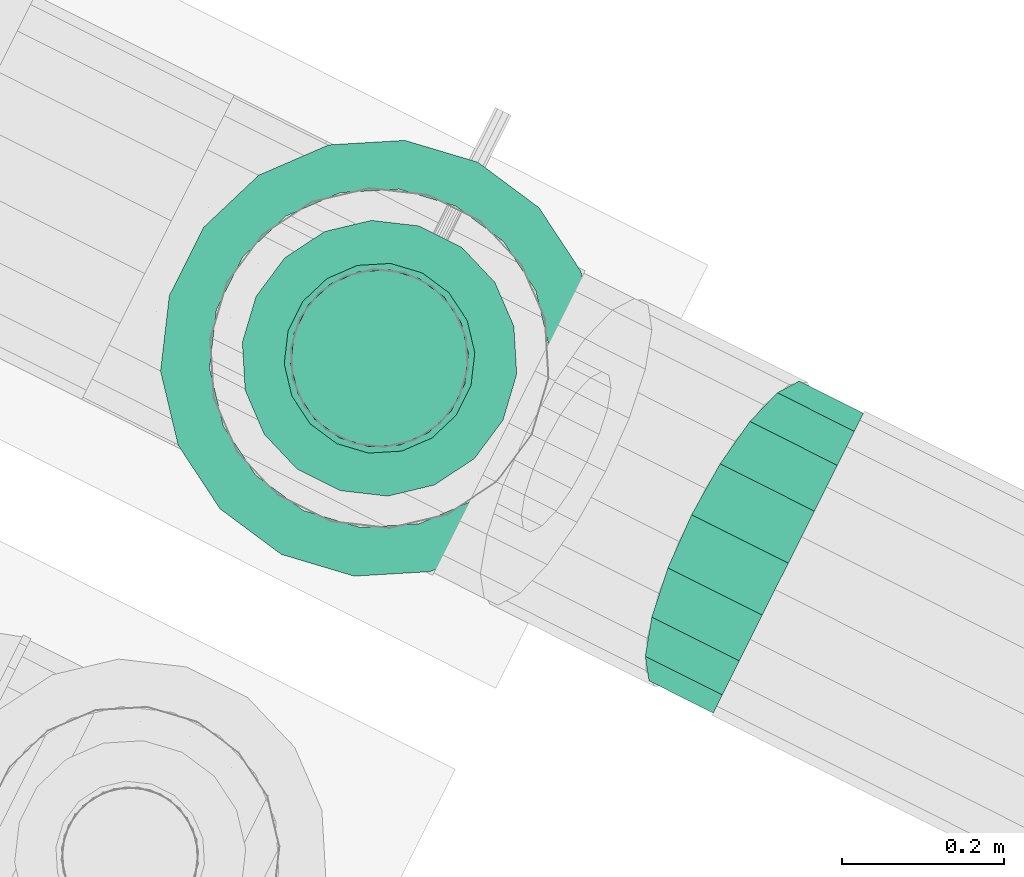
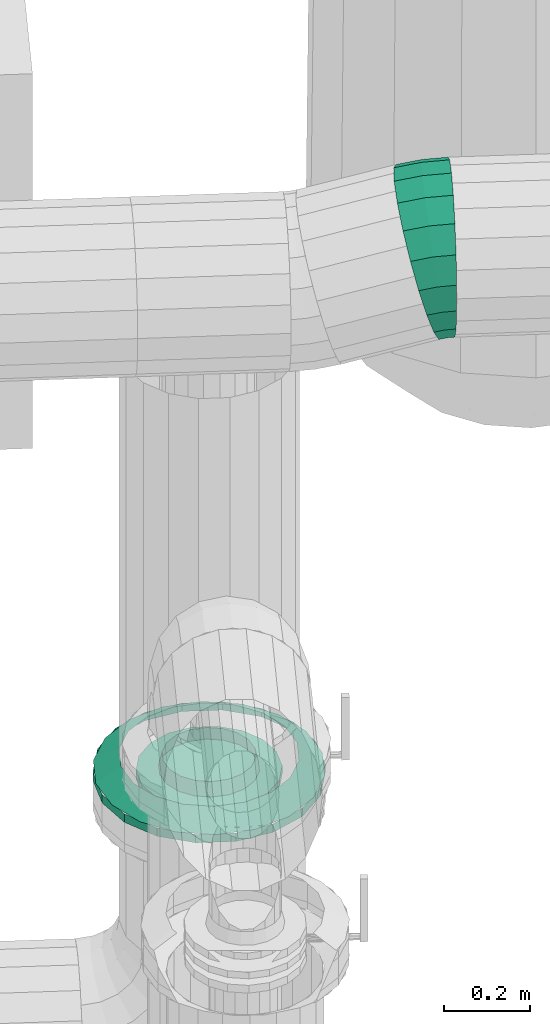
# One storey, part 137 of 152: 1 flow fitting, 1 flow segment.
"""IFC2X3 building model written with IfcOpenShell, lengths in metres."""

from ifc_helpers import new_model, si_unit, derived_unit, direction, frame, origin, place, context, subcontext, project, spatial, face_set, surface_model, source, transform, mapped, material, type_object, type_shapes, element, save


model = new_model("IFC2X3")

# Units and contexts
model_context = context("Model", 3, precision=5.2338327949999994e-05, world=origin(), true_north=direction((0.0, 1.0)))
body_context = subcontext(model_context, "Body", "Model", "MODEL_VIEW")
ifc_project = project(units=[si_unit("LENGTHUNIT", "METRE"), si_unit("AREAUNIT", "SQUARE_METRE"), si_unit("VOLUMEUNIT", "CUBIC_METRE"), si_unit("MASSUNIT", "GRAM", prefix="KILO"), si_unit("PLANEANGLEUNIT", "RADIAN"), derived_unit("THERMALTRANSMITTANCEUNIT", [(si_unit("MASSUNIT", "GRAM", prefix="KILO"), 1), (si_unit("THERMODYNAMICTEMPERATUREUNIT", "KELVIN"), -1), (si_unit("TIMEUNIT", "SECOND"), -3)])], contexts=[model_context])

# Site, building, storey
site_placement = place(None, frame((0.0, 0.0, 0.0), z_axis=(0.0, 0.0, 1.0), x_axis=(0.8939966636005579, -0.4480736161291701, 0.0)))
site = spatial("IfcSite", under=ifc_project, at=site_placement, Name="Default", CompositionType="ELEMENT")
building_placement = place(site_placement, origin())
building = spatial("IfcBuilding", under=site, at=building_placement, CompositionType="ELEMENT")
storey_placement = place(building_placement, frame((0.0, 0.0, 2.7499999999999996)))
storey = spatial("IfcBuildingStorey", under=building, at=storey_placement, Name="1. Obergeschoss", CompositionType="ELEMENT", Elevation=2.7499999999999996)

# Flow fitting
ifc_material = material(Name="IfcSurfaceStyle #1741")
distribution_element_type_1 = type_object("IfcDistributionElementType", Name="Flansch:Flansch", material=ifc_material)
shared_shape_1 = source(origin(), body_context, "Body", "SurfaceModel", [
    surface_model("IfcFaceBasedSurfaceModel", [(11.895814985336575, 8.012208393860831, 4.161028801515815), (11.885562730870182, 8.070351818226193, 4.161028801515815), (11.885562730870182, 8.070351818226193, 4.185028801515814), (11.895814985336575, 8.012208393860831, 4.185028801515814), (11.856042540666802, 8.121482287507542, 4.161028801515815), (11.856042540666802, 8.121482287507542, 4.185028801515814), (11.810814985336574, 8.159432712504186, 4.161028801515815), (11.810814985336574, 8.159432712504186, 4.185028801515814), (11.755335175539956, 8.179625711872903, 4.161028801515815), (11.755335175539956, 8.179625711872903, 4.185028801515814), (11.696294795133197, 8.179625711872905, 4.161028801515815), (11.696294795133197, 8.179625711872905, 4.185028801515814), (11.640814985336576, 8.159432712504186, 4.161028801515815), (11.640814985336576, 8.159432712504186, 4.185028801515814), (11.595587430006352, 8.121482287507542, 4.161028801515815), (11.595587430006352, 8.121482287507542, 4.185028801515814), (11.566067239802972, 8.070351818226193, 4.161028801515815), (11.566067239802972, 8.070351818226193, 4.185028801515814), (11.555814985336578, 8.012208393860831, 4.161028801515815), (11.555814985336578, 8.012208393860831, 4.185028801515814), (11.566067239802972, 7.954064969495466, 4.161028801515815), (11.566067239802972, 7.954064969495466, 4.185028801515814), (11.595587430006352, 7.90293450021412, 4.161028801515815), (11.595587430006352, 7.90293450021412, 4.185028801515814), (11.640814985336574, 7.864984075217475, 4.161028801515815), (11.640814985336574, 7.864984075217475, 4.185028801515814), (11.6962947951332, 7.844791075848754, 4.161028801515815), (11.6962947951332, 7.844791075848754, 4.185028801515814), (11.755335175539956, 7.844791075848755, 4.161028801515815), (11.755335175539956, 7.844791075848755, 4.185028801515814), (11.810814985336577, 7.8649840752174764, 4.161028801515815), (11.810814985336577, 7.8649840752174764, 4.185028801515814), (11.8560425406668, 7.902934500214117, 4.161028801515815), (11.8560425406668, 7.902934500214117, 4.185028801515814), (11.885562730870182, 7.954064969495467, 4.161028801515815), (11.885562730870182, 7.954064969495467, 4.185028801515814), (11.725814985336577, 8.012208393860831, 4.185028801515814), (11.725814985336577, 7.89470839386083, 4.185028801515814), (11.766002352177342, 7.901794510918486, 4.185028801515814), (11.763283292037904, 7.909265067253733, 4.223028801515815), (11.725814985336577, 7.902658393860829, 4.223028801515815), (11.801342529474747, 7.922198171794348, 4.185028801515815), (11.796232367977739, 7.928288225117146, 4.223028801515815), (11.827572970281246, 7.953458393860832, 4.185028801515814), (11.82068806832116, 7.957433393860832, 4.223028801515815), (11.841529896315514, 7.991804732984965, 4.185028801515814), (11.833700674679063, 7.993185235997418, 4.223028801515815), (11.841529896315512, 8.032612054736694, 4.185028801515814), (11.833700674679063, 8.031231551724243, 4.223028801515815), (11.827572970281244, 8.070958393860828, 4.185028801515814), (11.820688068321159, 8.066983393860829, 4.223028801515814), (11.801342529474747, 8.10221861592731, 4.185028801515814), (11.796232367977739, 8.096128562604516, 4.223028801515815), (11.766002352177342, 8.122622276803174, 4.185028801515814), (11.763283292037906, 8.115151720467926, 4.223028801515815), (11.725814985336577, 8.129708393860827, 4.185028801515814), (11.725814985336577, 8.121758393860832, 4.223028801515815), (11.68562761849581, 8.122622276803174, 4.185028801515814), (11.688346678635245, 8.115151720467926, 4.223028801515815), (11.650287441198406, 8.102218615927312, 4.185028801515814), (11.655397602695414, 8.096128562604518, 4.223028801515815), (11.624057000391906, 8.07095839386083, 4.185028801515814), (11.630941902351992, 8.06698339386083, 4.223028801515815), (11.610100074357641, 8.032612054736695, 4.185028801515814), (11.617929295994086, 8.031231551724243, 4.223028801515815), (11.610100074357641, 7.991804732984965, 4.185028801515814), (11.617929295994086, 7.993185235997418, 4.223028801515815), (11.624057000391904, 7.95345839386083, 4.185028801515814), (11.630941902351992, 7.957433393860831, 4.223028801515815), (11.650287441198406, 7.922198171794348, 4.185028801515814), (11.655397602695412, 7.928288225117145, 4.223028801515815), (11.68562761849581, 7.901794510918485, 4.185028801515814), (11.688346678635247, 7.909265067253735, 4.223028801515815), (11.995814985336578, 8.012208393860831, 4.161028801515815), (11.97953199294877, 8.104553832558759, 4.161028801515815), (11.97953199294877, 8.104553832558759, 4.185028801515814), (11.995814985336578, 8.012208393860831, 4.185028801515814), (11.932646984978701, 8.185761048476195, 4.161028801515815), (11.932646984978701, 8.185761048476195, 4.185028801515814), (11.860814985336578, 8.246035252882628, 4.161028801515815), (11.860814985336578, 8.246035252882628, 4.185028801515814), (11.772699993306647, 8.278106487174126, 4.161028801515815), (11.772699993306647, 8.278106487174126, 4.185028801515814), (11.678929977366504, 8.278106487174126, 4.161028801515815), (11.678929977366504, 8.278106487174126, 4.185028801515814), (11.590814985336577, 8.246035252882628, 4.161028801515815), (11.590814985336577, 8.246035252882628, 4.185028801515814), (11.518982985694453, 8.185761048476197, 4.161028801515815), (11.518982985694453, 8.185761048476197, 4.185028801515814), (11.472097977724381, 8.10455383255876, 4.161028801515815), (11.472097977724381, 8.10455383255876, 4.185028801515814), (11.455814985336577, 8.012208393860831, 4.161028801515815), (11.455814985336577, 8.012208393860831, 4.185028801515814), (11.472097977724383, 7.919862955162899, 4.161028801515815), (11.472097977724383, 7.919862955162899, 4.185028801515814), (11.518982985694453, 7.838655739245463, 4.161028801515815), (11.518982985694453, 7.838655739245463, 4.185028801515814), (11.590814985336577, 7.77838153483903, 4.161028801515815), (11.590814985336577, 7.77838153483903, 4.185028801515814), (11.678929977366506, 7.746310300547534, 4.161028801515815), (11.678929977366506, 7.746310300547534, 4.185028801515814), (11.772699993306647, 7.746310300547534, 4.161028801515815), (11.772699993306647, 7.746310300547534, 4.185028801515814), (11.860814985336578, 7.77838153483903, 4.161028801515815), (11.860814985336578, 7.77838153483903, 4.185028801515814), (11.932646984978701, 7.838655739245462, 4.161028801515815), (11.932646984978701, 7.838655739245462, 4.185028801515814), (11.97953199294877, 7.919862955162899, 4.161028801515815), (11.97953199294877, 7.919862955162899, 4.185028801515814), (11.725814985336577, 7.74220839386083, 4.185028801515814), (11.818160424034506, 7.758491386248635, 4.185028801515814), (11.79748530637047, 7.815295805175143, 4.223028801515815), (11.725814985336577, 7.802658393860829, 4.223028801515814), (11.899367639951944, 7.8053763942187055, 4.185028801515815), (11.860511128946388, 7.8516837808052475, 4.223028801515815), (11.959641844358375, 7.87720839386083, 4.185028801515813), (11.907290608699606, 7.90743339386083, 4.223028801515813), (11.991713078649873, 7.965323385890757, 4.1850288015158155), (11.932181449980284, 7.975820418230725, 4.223028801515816), (11.991713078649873, 8.059093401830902, 4.185028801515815), (11.932181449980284, 8.048596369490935, 4.223028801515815), (11.959641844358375, 8.14720839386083, 4.185028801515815), (11.907290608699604, 8.11698339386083, 4.223028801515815), (11.899367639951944, 8.219040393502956, 4.185028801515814), (11.860511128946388, 8.172733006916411, 4.223028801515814), (11.818160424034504, 8.265925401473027, 4.185028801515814), (11.79748530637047, 8.209120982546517, 4.223028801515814), (11.725814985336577, 8.282208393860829, 4.185028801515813), (11.725814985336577, 8.22175839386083, 4.223028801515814), (11.633469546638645, 8.265925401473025, 4.185028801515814), (11.654144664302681, 8.209120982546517, 4.223028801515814), (11.55226233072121, 8.219040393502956, 4.185028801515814), (11.591118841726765, 8.172733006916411, 4.223028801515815), (11.491988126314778, 8.14720839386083, 4.185028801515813), (11.544339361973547, 8.11698339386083, 4.223028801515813), (11.45991689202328, 8.059093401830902, 4.185028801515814), (11.519448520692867, 8.048596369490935, 4.223028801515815), (11.45991689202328, 7.965323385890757, 4.185028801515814), (11.519448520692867, 7.9758204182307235, 4.223028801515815), (11.491988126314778, 7.87720839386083, 4.185028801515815), (11.544339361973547, 7.90743339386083, 4.223028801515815), (11.55226233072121, 7.805376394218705, 4.185028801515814), (11.591118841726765, 7.8516837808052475, 4.223028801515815), (11.633469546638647, 7.758491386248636, 4.185028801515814), (11.654144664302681, 7.815295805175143, 4.223028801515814)], [face_set([[[0, 1, 2, 3]], [[1, 4, 5, 2]], [[4, 6, 7, 5]], [[6, 8, 9, 7]], [[8, 10, 11, 9]], [[10, 12, 13, 11]], [[12, 14, 15, 13]], [[14, 16, 17, 15]], [[16, 18, 19, 17]], [[18, 20, 21, 19]], [[20, 22, 23, 21]], [[22, 24, 25, 23]], [[24, 26, 27, 25]], [[26, 28, 29, 27]], [[28, 30, 31, 29]], [[30, 32, 33, 31]], [[32, 34, 35, 33]], [[34, 0, 3, 35]], [[36, 35, 3]], [[36, 33, 35]], [[36, 31, 33]], [[36, 29, 31]], [[36, 27, 29]], [[36, 25, 27]], [[36, 23, 25]], [[36, 21, 23]], [[36, 19, 21]], [[36, 17, 19]], [[36, 15, 17]], [[36, 13, 15]], [[36, 11, 13]], [[36, 9, 11]], [[36, 7, 9]], [[36, 5, 7]], [[36, 2, 5]], [[36, 3, 2]], [[37, 38, 39, 40]], [[38, 41, 42, 39]], [[41, 43, 44, 42]], [[43, 45, 46, 44]], [[45, 47, 48, 46]], [[47, 49, 50, 48]], [[49, 51, 52, 50]], [[51, 53, 54, 52]], [[53, 55, 56, 54]], [[55, 57, 58, 56]], [[57, 59, 60, 58]], [[59, 61, 62, 60]], [[61, 63, 64, 62]], [[63, 65, 66, 64]], [[65, 67, 68, 66]], [[67, 69, 70, 68]], [[69, 71, 72, 70]], [[71, 37, 40, 72]], [[73, 74, 75, 76]], [[74, 77, 78, 75]], [[77, 79, 80, 78]], [[79, 81, 82, 80]], [[81, 83, 84, 82]], [[83, 85, 86, 84]], [[85, 87, 88, 86]], [[87, 89, 90, 88]], [[89, 91, 92, 90]], [[91, 93, 94, 92]], [[93, 95, 96, 94]], [[95, 97, 98, 96]], [[97, 99, 100, 98]], [[99, 101, 102, 100]], [[101, 103, 104, 102]], [[103, 105, 106, 104]], [[105, 107, 108, 106]], [[107, 73, 76, 108]], [[109, 110, 111, 112]], [[110, 113, 114, 111]], [[113, 115, 116, 114]], [[115, 117, 118, 116]], [[117, 119, 120, 118]], [[119, 121, 122, 120]], [[121, 123, 124, 122]], [[123, 125, 126, 124]], [[125, 127, 128, 126]], [[127, 129, 130, 128]], [[129, 131, 132, 130]], [[131, 133, 134, 132]], [[133, 135, 136, 134]], [[135, 137, 138, 136]], [[137, 139, 140, 138]], [[139, 141, 142, 140]], [[141, 143, 144, 142]], [[143, 109, 112, 144]]])]),
])
type_shapes(distribution_element_type_1, [shared_shape_1])
flow_fitting_placement = place(storey_placement, frame((0.0, 0.0, -2.7499999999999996)))
element("IfcFlowFitting", 1, at=flow_fitting_placement, inside=storey, type_object=distribution_element_type_1, material=ifc_material, Name="Flansch", ObjectType="Flansch", context=body_context, shape_type="MappedRepresentation", body=[
    mapped(shared_shape_1, transform((0.0, 0.0, 0.0), scale=1.0)),
])

# Flow segment
distribution_element_type_2 = type_object("IfcDistributionElementType", Name="Rohrbogen 248783:Rohrbogen 248783", material=ifc_material)
shared_shape_2 = source(origin(), body_context, "Body", "SurfaceModel", [
    surface_model("IfcFaceBasedSurfaceModel", [(12.288703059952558, 8.012208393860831, 5.745190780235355), (12.288703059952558, 8.049676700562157, 5.738584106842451), (12.235455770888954, 8.049676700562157, 5.735094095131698), (12.234593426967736, 8.012208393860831, 5.741644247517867), (12.183119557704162, 8.049676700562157, 5.724683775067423), (12.181409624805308, 8.012208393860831, 5.731065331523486), (12.288703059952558, 8.082625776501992, 5.719560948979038), (12.237938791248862, 8.082625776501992, 5.716233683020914), (12.188043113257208, 8.082625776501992, 5.706308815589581), (12.288703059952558, 8.107081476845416, 5.690415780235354), (12.24174299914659, 8.107081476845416, 5.687337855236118), (12.195586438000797, 8.107081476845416, 5.678156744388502), (12.288703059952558, 8.120094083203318, 5.654663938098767), (12.246409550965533, 8.120094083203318, 5.65189187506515), (12.204839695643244, 8.12009408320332, 5.643623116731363), (12.28870305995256, 8.12009408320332, 5.616617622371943), (12.251375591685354, 8.12009408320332, 5.614171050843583), (12.21468680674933, 8.12009408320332, 5.606873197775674), (12.28870305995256, 8.107081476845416, 5.580865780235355), (12.256042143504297, 8.107081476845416, 5.578725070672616), (12.22394006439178, 8.107081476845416, 5.572339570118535), (12.288703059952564, 8.082625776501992, 5.551720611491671), (12.259846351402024, 8.082625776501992, 5.549829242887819), (12.231483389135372, 8.082625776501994, 5.544187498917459), (12.288703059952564, 8.04967670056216, 5.532697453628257), (12.26232937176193, 8.04967670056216, 5.5309688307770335), (12.236406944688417, 8.04967670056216, 5.525812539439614), (12.288703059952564, 8.012208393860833, 5.5260907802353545), (12.26319171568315, 8.012208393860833, 5.524418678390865), (12.238116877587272, 8.012208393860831, 5.519430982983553), (12.288703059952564, 7.974740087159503, 5.53269745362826), (12.26232937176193, 7.974740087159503, 5.530968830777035), (12.236406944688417, 7.974740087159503, 5.525812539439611), (12.288703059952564, 7.94179101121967, 5.551720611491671), (12.259846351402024, 7.941791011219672, 5.5498292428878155), (12.231483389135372, 7.941791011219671, 5.544187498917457), (12.288703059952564, 7.917335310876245, 5.580865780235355), (12.256042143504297, 7.917335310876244, 5.578725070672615), (12.223940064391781, 7.917335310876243, 5.572339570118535), (12.288703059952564, 7.904322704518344, 5.616617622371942), (12.251375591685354, 7.904322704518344, 5.6141710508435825), (12.21468680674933, 7.904322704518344, 5.606873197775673), (12.288703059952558, 7.904322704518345, 5.654663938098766), (12.246409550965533, 7.904322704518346, 5.651891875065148), (12.204839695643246, 7.904322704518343, 5.643623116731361), (12.288703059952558, 7.917335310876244, 5.690415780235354), (12.24174299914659, 7.917335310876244, 5.687337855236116), (12.195586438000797, 7.917335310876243, 5.678156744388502), (12.288703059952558, 7.941791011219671, 5.719560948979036), (12.237938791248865, 7.941791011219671, 5.7162336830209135), (12.188043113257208, 7.941791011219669, 5.706308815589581), (12.288703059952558, 7.974740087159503, 5.738584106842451), (12.235455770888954, 7.974740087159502, 5.735094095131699), (12.183119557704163, 7.974740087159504, 5.724683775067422), (12.28870305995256, 8.01220839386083, 5.845190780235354), (12.288703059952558, 8.083878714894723, 5.832553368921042), (12.223190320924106, 8.083878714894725, 5.828259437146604), (12.221540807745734, 8.012208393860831, 5.8407887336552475), (12.158798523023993, 8.083878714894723, 5.815451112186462), (12.155527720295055, 8.012208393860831, 5.827657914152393), (12.288703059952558, 8.146904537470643, 5.796165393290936), (12.227939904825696, 8.146904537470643, 5.792182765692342), (12.16821642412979, 8.146904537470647, 5.780303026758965), (12.288703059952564, 8.19368401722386, 5.740415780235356), (12.235216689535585, 8.19368401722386, 5.736910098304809), (12.182645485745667, 8.193684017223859, 5.726453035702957), (12.28870305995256, 8.218574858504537, 5.672028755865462), (12.244142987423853, 8.218574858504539, 5.6691081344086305), (12.200345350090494, 8.218574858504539, 5.660396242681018), (12.288703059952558, 8.21857485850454, 5.59925280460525), (12.253642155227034, 8.21857485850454, 5.596954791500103), (12.219181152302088, 8.218574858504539, 5.590100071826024), (12.28870305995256, 8.193684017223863, 5.530865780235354), (12.2625684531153, 8.193684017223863, 5.529152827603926), (12.236881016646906, 8.19368401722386, 5.524043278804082), (12.28870305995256, 8.146904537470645, 5.475116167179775), (12.269845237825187, 8.146904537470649, 5.473880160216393), (12.25131007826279, 8.146904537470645, 5.470193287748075), (12.28870305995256, 8.083878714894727, 5.438728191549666), (12.274594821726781, 8.083878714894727, 5.437803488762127), (12.260727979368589, 8.083878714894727, 5.4350452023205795), (12.28870305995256, 8.012208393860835, 5.426090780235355), (12.276244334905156, 8.012208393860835, 5.425274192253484), (12.263998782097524, 8.012208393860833, 5.422838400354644), (12.28870305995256, 7.9405380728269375, 5.438728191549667), (12.274594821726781, 7.940538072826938, 5.437803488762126), (12.260727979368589, 7.940538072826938, 5.435045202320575), (12.288703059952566, 7.877512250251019, 5.475116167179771), (12.269845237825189, 7.87751225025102, 5.473880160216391), (12.251310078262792, 7.877512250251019, 5.470193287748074), (12.28870305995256, 7.830732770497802, 5.530865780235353), (12.2625684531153, 7.830732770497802, 5.529152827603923), (12.236881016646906, 7.830732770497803, 5.524043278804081), (12.288703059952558, 7.805841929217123, 5.599252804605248), (12.253642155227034, 7.805841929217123, 5.596954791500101), (12.219181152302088, 7.805841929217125, 5.59010007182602), (12.28870305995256, 7.805841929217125, 5.672028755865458), (12.244142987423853, 7.805841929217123, 5.66910813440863), (12.200345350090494, 7.805841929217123, 5.660396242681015), (12.288703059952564, 7.8307327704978, 5.740415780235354), (12.235216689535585, 7.8307327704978, 5.736910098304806), (12.182645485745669, 7.830732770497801, 5.726453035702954), (12.28870305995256, 7.877512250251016, 5.796165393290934), (12.227939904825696, 7.877512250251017, 5.792182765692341), (12.16821642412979, 7.877512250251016, 5.780303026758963), (12.288703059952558, 7.9405380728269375, 5.832553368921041), (12.223190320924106, 7.940538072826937, 5.828259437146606), (12.158798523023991, 7.9405380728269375, 5.81545111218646)], [face_set([[[0, 1, 2, 3]], [[3, 2, 4, 5]], [[1, 6, 7, 2]], [[2, 7, 8, 4]], [[6, 9, 10, 7]], [[7, 10, 11, 8]], [[9, 12, 13, 10]], [[10, 13, 14, 11]], [[12, 15, 16, 13]], [[13, 16, 17, 14]], [[15, 18, 19, 16]], [[16, 19, 20, 17]], [[18, 21, 22, 19]], [[19, 22, 23, 20]], [[21, 24, 25, 22]], [[22, 25, 26, 23]], [[24, 27, 28, 25]], [[25, 28, 29, 26]], [[27, 30, 31, 28]], [[28, 31, 32, 29]], [[30, 33, 34, 31]], [[31, 34, 35, 32]], [[33, 36, 37, 34]], [[34, 37, 38, 35]], [[36, 39, 40, 37]], [[37, 40, 41, 38]], [[39, 42, 43, 40]], [[40, 43, 44, 41]], [[42, 45, 46, 43]], [[43, 46, 47, 44]], [[45, 48, 49, 46]], [[46, 49, 50, 47]], [[48, 51, 52, 49]], [[49, 52, 53, 50]], [[51, 0, 3, 52]], [[52, 3, 5, 53]], [[54, 55, 56, 57]], [[57, 56, 58, 59]], [[55, 60, 61, 56]], [[56, 61, 62, 58]], [[60, 63, 64, 61]], [[61, 64, 65, 62]], [[63, 66, 67, 64]], [[64, 67, 68, 65]], [[66, 69, 70, 67]], [[67, 70, 71, 68]], [[69, 72, 73, 70]], [[70, 73, 74, 71]], [[72, 75, 76, 73]], [[73, 76, 77, 74]], [[75, 78, 79, 76]], [[76, 79, 80, 77]], [[78, 81, 82, 79]], [[79, 82, 83, 80]], [[81, 84, 85, 82]], [[82, 85, 86, 83]], [[84, 87, 88, 85]], [[85, 88, 89, 86]], [[87, 90, 91, 88]], [[88, 91, 92, 89]], [[90, 93, 94, 91]], [[91, 94, 95, 92]], [[93, 96, 97, 94]], [[94, 97, 98, 95]], [[96, 99, 100, 97]], [[97, 100, 101, 98]], [[99, 102, 103, 100]], [[100, 103, 104, 101]], [[102, 105, 106, 103]], [[103, 106, 107, 104]], [[105, 54, 57, 106]], [[106, 57, 59, 107]]])]),
])
type_shapes(distribution_element_type_2, [shared_shape_2])
flow_segment_placement = place(storey_placement, frame((0.0, 0.0, -2.7499999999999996)))
element("IfcFlowSegment", 2, at=flow_segment_placement, inside=storey, type_object=distribution_element_type_2, material=ifc_material, Name="Rohrbogen", ObjectType="Rohrbogen", context=body_context, shape_type="MappedRepresentation", body=[
    mapped(shared_shape_2, transform((0.0, 0.0, 0.0), scale=1.0)),
])

save(model, "model.ifc")
